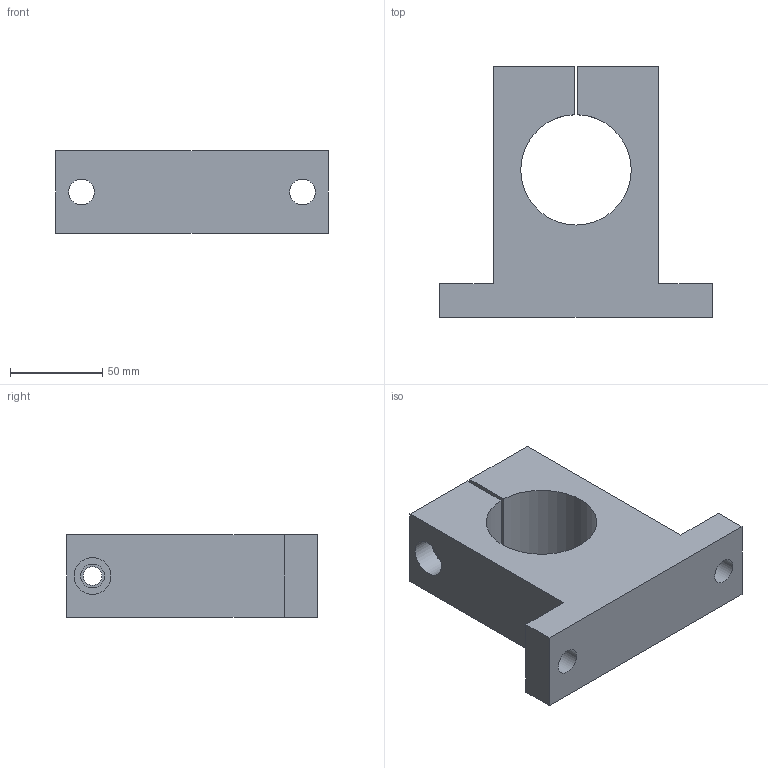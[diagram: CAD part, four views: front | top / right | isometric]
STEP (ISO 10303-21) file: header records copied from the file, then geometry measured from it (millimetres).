
FILE_DESCRIPTION(/* description */ ('Unknown'),/* implementation_level */ '2;1');
FILE_NAME(/* name */ 'SK60',/* time_stamp */ '2025-02-04T09:19:10+08:00',/* author */ ('Unknown'),/* organization */ ('Unknown'),/* preprocessor_version */ 'ST-DEVELOPER v18.102',/* originating_system */ 'Solid Edge',/* authorisation */ 'Unknown');
FILE_SCHEMA (('AUTOMOTIVE_DESIGN {1 0 10303 214 3 1 1}'));
Length unit declared in the file: millimetre
Products named in the file (1): SK60
Bounding box: 148 x 136 x 45 mm (x, y, z)
Volume: 450959.8 mm3; surface area: 61033.4 mm2
Topology: 1 solids, 1 shells, 20 faces, 52 edges, 35 vertices
Faces by surface type: plane 14, cylinder 6
Full cylindrical faces by diameter (mm): 10.2 x1, 13 x1, 14 x2, 20 x1
Entity records: 628 total; most frequent: CARTESIAN_POINT 101, DIRECTION 100, ORIENTED_EDGE 92, EDGE_CURVE 46, VERTEX_POINT 34, LINE 34, VECTOR 34, EDGE_LOOP 34
